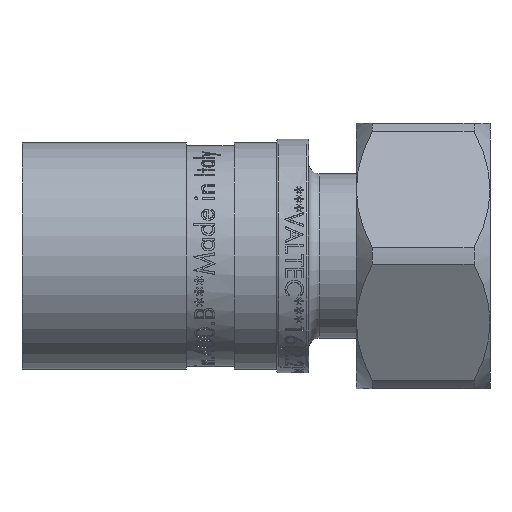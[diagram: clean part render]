
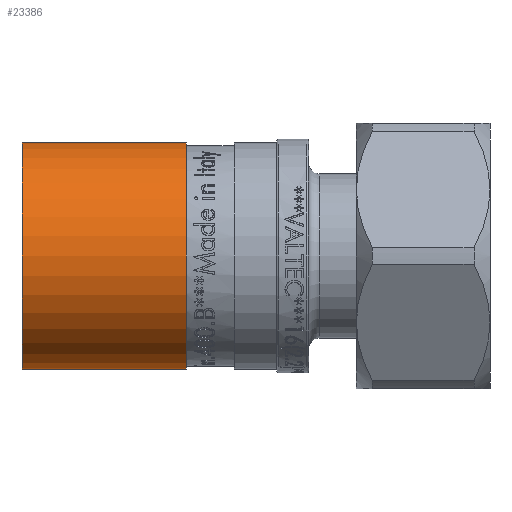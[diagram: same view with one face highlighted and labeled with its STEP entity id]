
A CAD part, front view. The second image highlights one B-rep face of the part: STEP entity #23386.
In plain terms, the highlighted cylindrical face has radius 10.7 mm (diameter 21.4 mm), a full revolution.
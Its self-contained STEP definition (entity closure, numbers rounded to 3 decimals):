
#1771=CIRCLE('',#24487,10.7);
#1772=CIRCLE('',#24488,10.7);
#1773=CIRCLE('',#24490,10.7);
#1774=CIRCLE('',#24491,10.7);
#3149=FACE_OUTER_BOUND('',#4550,.T.);
#4550=EDGE_LOOP('',(#21653,#21654,#21655,#21656,#21657,#21658));
#7491=LINE('',#54232,#8995);
#8995=VECTOR('',#28232,10.7);
#11264=VERTEX_POINT('',#54223);
#11265=VERTEX_POINT('',#54224);
#11266=VERTEX_POINT('',#54228);
#11267=VERTEX_POINT('',#54229);
#14760=EDGE_CURVE('',#11264,#11265,#1771,.T.);
#14761=EDGE_CURVE('',#11265,#11264,#1772,.T.);
#14762=EDGE_CURVE('',#11266,#11267,#1773,.T.);
#14763=EDGE_CURVE('',#11267,#11266,#1774,.T.);
#14764=EDGE_CURVE('',#11267,#11265,#7491,.T.);
#21653=ORIENTED_EDGE('',*,*,#14762,.F.);
#21654=ORIENTED_EDGE('',*,*,#14763,.F.);
#21655=ORIENTED_EDGE('',*,*,#14764,.T.);
#21656=ORIENTED_EDGE('',*,*,#14761,.T.);
#21657=ORIENTED_EDGE('',*,*,#14760,.T.);
#21658=ORIENTED_EDGE('',*,*,#14764,.F.);
#22131=CYLINDRICAL_SURFACE('',#24489,10.7);
#23386=ADVANCED_FACE('',(#3149),#22131,.T.);
#24487=AXIS2_PLACEMENT_3D('',#54225,#28222,#28223);
#24488=AXIS2_PLACEMENT_3D('',#54226,#28224,#28225);
#24489=AXIS2_PLACEMENT_3D('',#54227,#28226,#28227);
#24490=AXIS2_PLACEMENT_3D('',#54230,#28228,#28229);
#24491=AXIS2_PLACEMENT_3D('',#54231,#28230,#28231);
#28222=DIRECTION('center_axis',(1.,0.,0.));
#28223=DIRECTION('ref_axis',(0.,0.,-1.));
#28224=DIRECTION('center_axis',(1.,0.,0.));
#28225=DIRECTION('ref_axis',(0.,0.,-1.));
#28226=DIRECTION('center_axis',(1.,0.,0.));
#28227=DIRECTION('ref_axis',(0.,1.,0.));
#28228=DIRECTION('center_axis',(1.,0.,0.));
#28229=DIRECTION('ref_axis',(0.,0.,-1.));
#28230=DIRECTION('center_axis',(1.,0.,0.));
#28231=DIRECTION('ref_axis',(0.,0.,-1.));
#28232=DIRECTION('',(-1.,0.,0.));
#54223=CARTESIAN_POINT('',(-29.612,10.7,0.));
#54224=CARTESIAN_POINT('',(-29.612,-10.7,0.));
#54225=CARTESIAN_POINT('Origin',(-29.612,0.,0.));
#54226=CARTESIAN_POINT('Origin',(-29.612,0.,0.));
#54227=CARTESIAN_POINT('Origin',(-21.862,0.,0.));
#54228=CARTESIAN_POINT('',(-14.112,10.7,0.));
#54229=CARTESIAN_POINT('',(-14.112,-10.7,0.));
#54230=CARTESIAN_POINT('Origin',(-14.112,0.,0.));
#54231=CARTESIAN_POINT('Origin',(-14.112,0.,0.));
#54232=CARTESIAN_POINT('',(-21.862,-10.7,0.));
